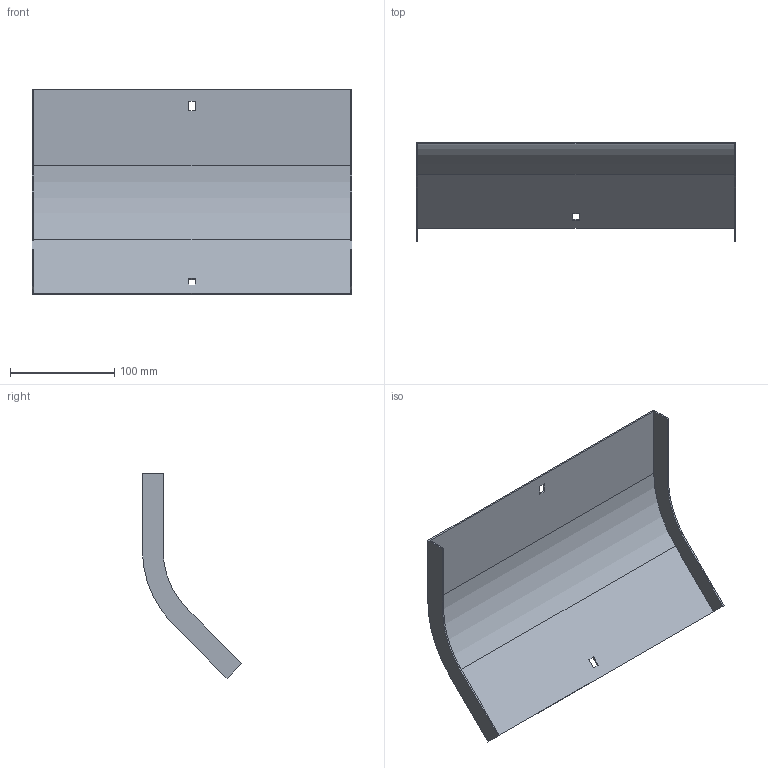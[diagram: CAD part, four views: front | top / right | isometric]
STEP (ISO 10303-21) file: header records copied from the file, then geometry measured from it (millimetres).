
FILE_DESCRIPTION (( 'STEP AP214' ), '1' );
FILE_NAME ('34G1D300.step', '2025-02-21T12:42:23', ( '' ), ( '' ), 'SwSTEP 2.0', 'SolidWorks 2023', '' );
FILE_SCHEMA (( 'AUTOMOTIVE_DESIGN' ));
Length unit declared in the file: millimetre
Products named in the file (1): 34G1D300
Bounding box: 307 x 95.56 x 196.56 mm (x, y, z)
Volume: 115658.3 mm3; surface area: 155968.5 mm2
Topology: 1 solids, 1 shells, 26 faces, 72 edges, 48 vertices
Faces by surface type: plane 22, cylinder 4
Entity records: 855 total; most frequent: CARTESIAN_POINT 147, ORIENTED_EDGE 144, DIRECTION 134, EDGE_CURVE 72, VECTOR 64, LINE 64, VERTEX_POINT 48, AXIS2_PLACEMENT_3D 35
